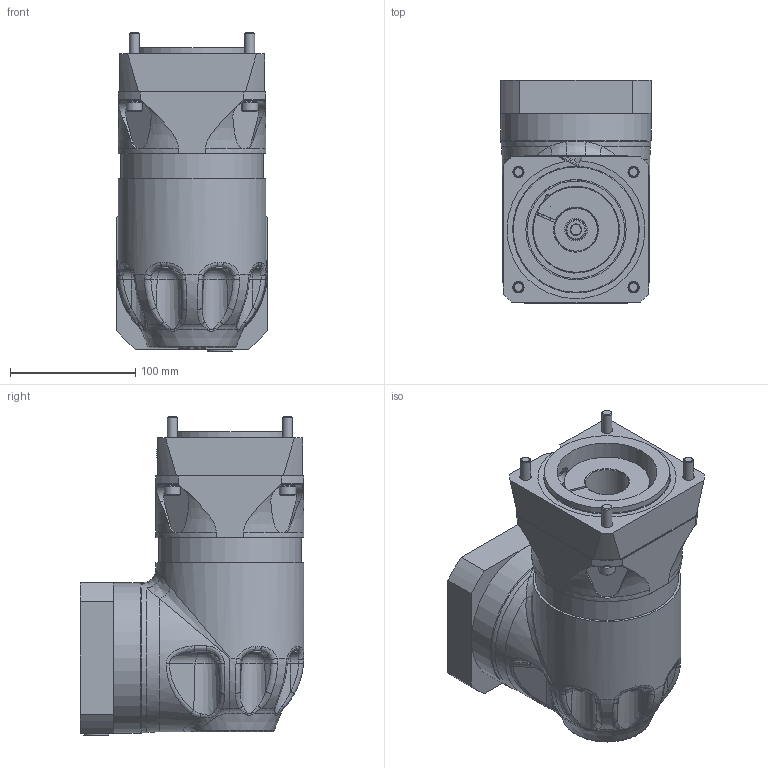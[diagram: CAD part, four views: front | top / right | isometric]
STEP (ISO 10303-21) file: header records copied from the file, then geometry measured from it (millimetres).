
FILE_DESCRIPTION (( 'STEP AP214' ), '1' );
FILE_NAME ('EPR-U-118-M2266-H1406 (24mm).STEP', '2024-10-25T16:49:10', ( '' ), ( '' ), 'SwSTEP 2.0', 'SolidWorks 2020', '' );
FILE_SCHEMA (( 'AUTOMOTIVE_DESIGN' ));
Length unit declared in the file: millimetre
Products named in the file (14): 4508XXXX M8 SHCS_M8 X 55; 47050004 BVL M10 10x16x1.00mm ST; H1406_EPL-U-118; 55010036; 23050075 EPL-U-118 to Macron 80-50 1.3750in Shaft; 4510XXXX M10 SHCS_M10 X 30; EPR-U-118-M2266-H1406 (24mm); EPR-U-118; 4506XXXX M6 SHCS_M6 X 25                                            ; 51020002 M16 Threaded Plug; 55012117 EPL-U-118 to Macron 80-50 Adapter; 51040002 14mm Plug; 47050011 BVL M6 6x10x0.70mm ST; 47050012 BVL M8 8x13x0.80mm ST
Assembly tree (25 placements, depth 3):
  EPR-U-118-M2266-H1406 (24mm)
    EPR-U-118
    55010036
    51040002 14mm Plug
    4506XXXX M6 SHCS_M6 X 25                                              x4
    47050011 BVL M6 6x10x0.70mm ST  x4
    H1406_EPL-U-118
      47050012 BVL M8 8x13x0.80mm ST  x4
      4508XXXX M8 SHCS_M8 X 55  x4
      4510XXXX M10 SHCS_M10 X 30
      47050004 BVL M10 10x16x1.00mm ST
      55012117 EPL-U-118 to Macron 80-50 Adapter
      51020002 M16 Threaded Plug
      23050075 EPL-U-118 to Macron 80-50 1.3750in Shaft
Bounding box: 120 x 178.5 x 254.88 mm (x, y, z)
Volume: 1692076.7 mm3; surface area: 518684.5 mm2
Topology: 93 solids, 93 shells, 3880 faces, 10409 edges, 6740 vertices
Faces by surface type: cone 1442, bspline 1155, plane 810, cylinder 386, torus 71, sphere 16
Full cylindrical faces by diameter (mm): 2 x2, 2.5 x7, 4 x2, 4.5 x1, 5 x8, 5.2 x8, 6 x39, 6.5 x8, 6.6 x6, 6.8 x14, 7 x1, 8 x12, 9 x10, 10 x16, 11 x13, 12 x1, 12.5 x1, 13 x6, 13.5 x1, 14 x4, 16 x3, 18 x2, 20 x1, 24 x1, 24.5 x1, 28.6 x1, 29.5 x1, 30 x2, 31.778 x1, 34.925 x1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
Entity records: 80246 total; most frequent: CARTESIAN_POINT 33583, ORIENTED_EDGE 9766, DIRECTION 7980, EDGE_CURVE 4883, AXIS2_PLACEMENT_3D 3600, VERTEX_POINT 3332, EDGE_LOOP 2837, FACE_OUTER_BOUND 2440
